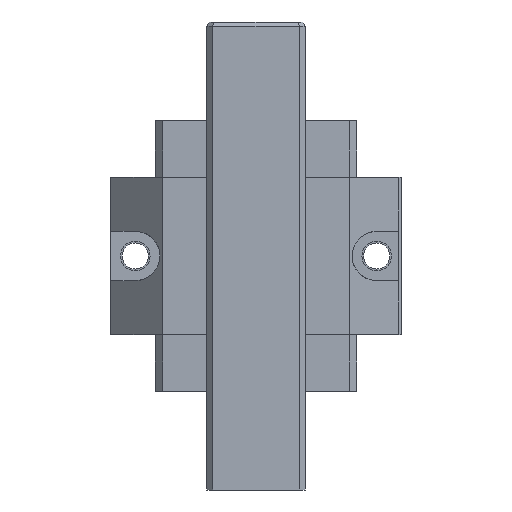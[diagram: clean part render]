
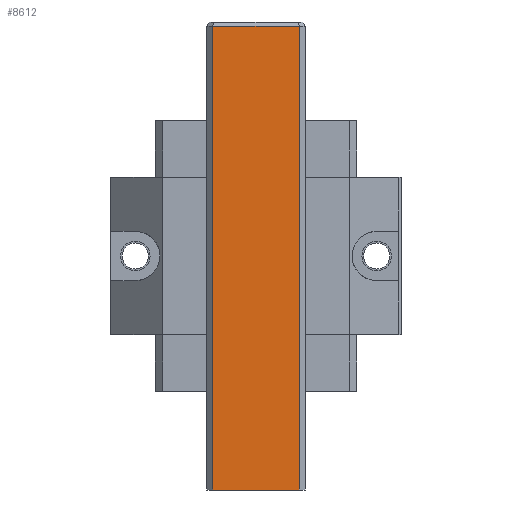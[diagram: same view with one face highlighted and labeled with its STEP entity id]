
A CAD part, front view. The second image highlights one B-rep face of the part: STEP entity #8612.
In plain terms, the highlighted planar face has unit normal (0, -1, 0).
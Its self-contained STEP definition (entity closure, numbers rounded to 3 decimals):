
#7573=DIRECTION('',(1.,0.,0.));
#7574=VECTOR('',#7573,17.6);
#7575=CARTESIAN_POINT('',(-8.8,-12.4,-47.5));
#7576=LINE('',#7575,#7574);
#7846=DIRECTION('',(1.,0.,0.));
#7847=VECTOR('',#7846,17.6);
#7848=CARTESIAN_POINT('',(-8.8,-12.4,46.634));
#7849=LINE('',#7848,#7847);
#7850=DIRECTION('',(0.,0.,1.));
#7851=VECTOR('',#7850,94.134);
#7852=CARTESIAN_POINT('',(-8.8,-12.4,-47.5));
#7853=LINE('',#7852,#7851);
#7858=DIRECTION('',(0.,0.,1.));
#7859=VECTOR('',#7858,94.134);
#7860=CARTESIAN_POINT('',(8.8,-12.4,-47.5));
#7861=LINE('',#7860,#7859);
#8044=CARTESIAN_POINT('',(-8.8,-12.4,-47.5));
#8045=VERTEX_POINT('',#8044);
#8046=CARTESIAN_POINT('',(8.8,-12.4,-47.5));
#8047=VERTEX_POINT('',#8046);
#8108=CARTESIAN_POINT('',(8.8,-12.4,46.634));
#8109=VERTEX_POINT('',#8108);
#8112=CARTESIAN_POINT('',(-8.8,-12.4,46.634));
#8113=VERTEX_POINT('',#8112);
#8600=CARTESIAN_POINT('',(-8.8,-12.4,-47.5));
#8601=DIRECTION('',(0.,-1.,0.));
#8602=DIRECTION('',(1.,0.,0.));
#8603=AXIS2_PLACEMENT_3D('',#8600,#8601,#8602);
#8604=PLANE('',#8603);
#8605=ORIENTED_EDGE('',*,*,#8591,.T.);
#8607=ORIENTED_EDGE('',*,*,#8606,.F.);
#8608=ORIENTED_EDGE('',*,*,#8193,.F.);
#8609=ORIENTED_EDGE('',*,*,#8566,.T.);
#8610=EDGE_LOOP('',(#8605,#8607,#8608,#8609));
#8611=FACE_OUTER_BOUND('',#8610,.F.);
#8193=EDGE_CURVE('',#8045,#8047,#7576,.T.);
#8566=EDGE_CURVE('',#8045,#8113,#7853,.T.);
#8591=EDGE_CURVE('',#8113,#8109,#7849,.T.);
#8606=EDGE_CURVE('',#8047,#8109,#7861,.T.);
#8612=ADVANCED_FACE('',(#8611),#8604,.T.);
